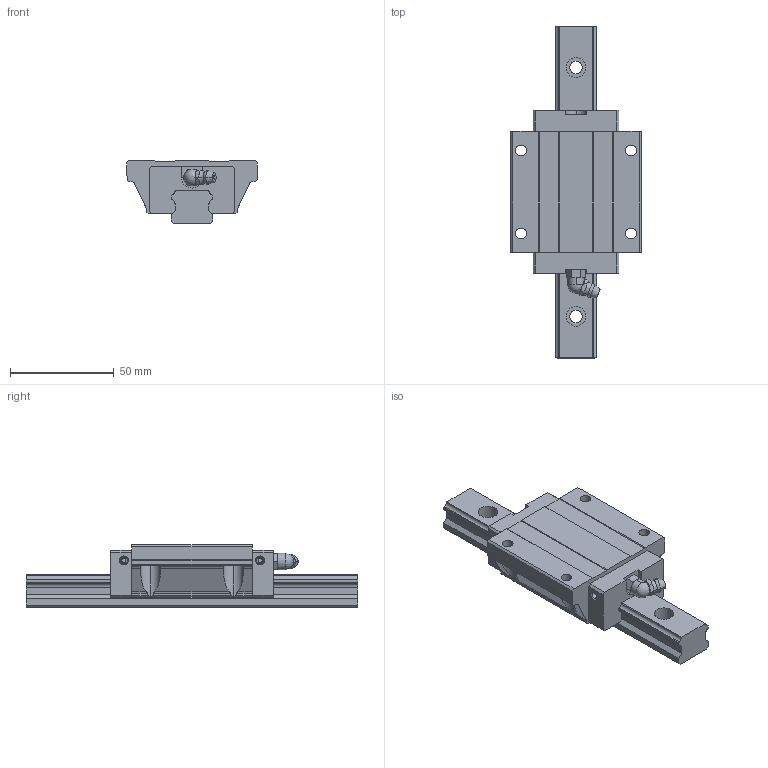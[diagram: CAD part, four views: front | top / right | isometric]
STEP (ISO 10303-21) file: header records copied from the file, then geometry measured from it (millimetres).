
FILE_DESCRIPTION((''),'1');
FILE_NAME(' ',' ',(''),(''),'ACIS Interop R16','Kubotek KeyCreator V6.5.2 (0407)',' ');
FILE_SCHEMA(('CONFIG_CONTROL_DESIGN'));
Length unit declared in the file: millimetre
Products named in the file (3): 1; 2; 3
Bounding box: 63 x 160 x 30 mm (x, y, z)
Volume: 124865.5 mm3; surface area: 31006.2 mm2
Topology: 3 solids, 3 shells, 237 faces, 647 edges, 429 vertices
Faces by surface type: plane 126, cylinder 86, cone 10, torus 10, sphere 3, bspline 2
Entity records: 7920 total; most frequent: CARTESIAN_POINT 1596, DIRECTION 1322, ORIENTED_EDGE 1290, EDGE_CURVE 645, AXIS2_PLACEMENT_3D 467, VERTEX_POINT 429, LINE 388, VECTOR 388
